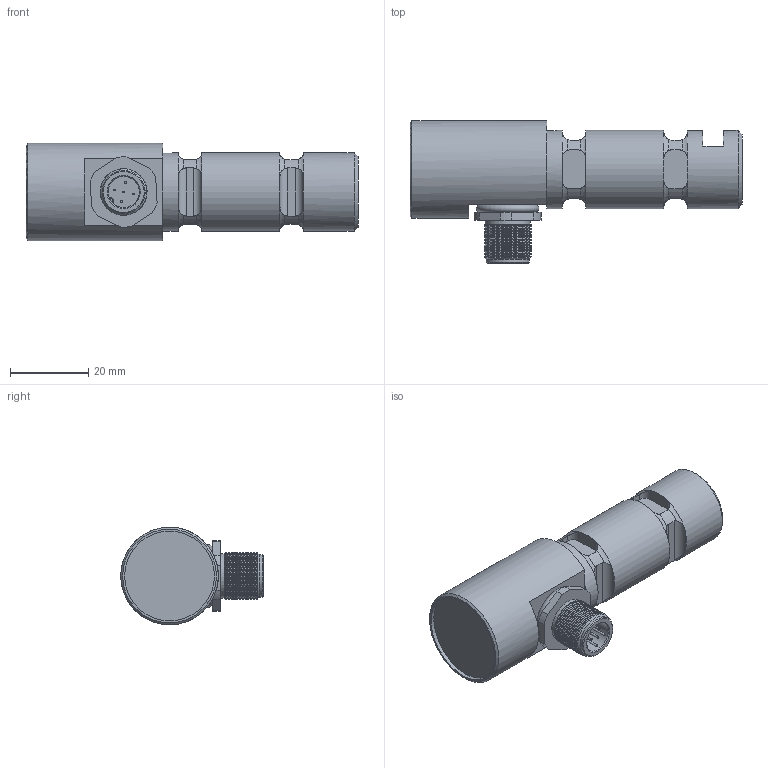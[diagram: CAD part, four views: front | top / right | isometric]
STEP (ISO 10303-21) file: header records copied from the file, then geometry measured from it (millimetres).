
FILE_DESCRIPTION(/* description */ ('Alibre Inc.'),/* implementation_level */ '2;1');
FILE_NAME(/* name */ 'export-3780DB35-D9CD-4B91-B5FF-049EFEE50570',/* time_stamp */ '2021-09-08T15:16:04+02:00',/* author */ (''),/* organization */ (''),/* preprocessor_version */ 'ST-DEVELOPER v17',/* originating_system */ 'Alibre',/* authorisation */ '');
FILE_SCHEMA (('CONFIG_CONTROL_DESIGN'));
Length unit declared in the file: millimetre
Bounding box: 85 x 36.5 x 25 mm (x, y, z)
Surface area: 161216 mm2
Topology: 7 solids, 8 shells, 258 faces, 573 edges, 338 vertices
Faces by surface type: cylinder 89, plane 80, cone 71, torus 18
Full cylindrical faces by diameter (mm): 0.5 x10, 8 x2, 10 x1, 11 x1, 11.5 x1, 12 x21, 13 x2, 14.5 x1, 20 x3, 23 x1, 25 x1
Entity records: 6420 total; most frequent: CARTESIAN_POINT 1644, ORIENTED_EDGE 934, DIRECTION 745, EDGE_CURVE 461, EDGE_LOOP 373, FACE_BOUND 373, AXIS2_PLACEMENT_3D 344, VERTEX_POINT 322
